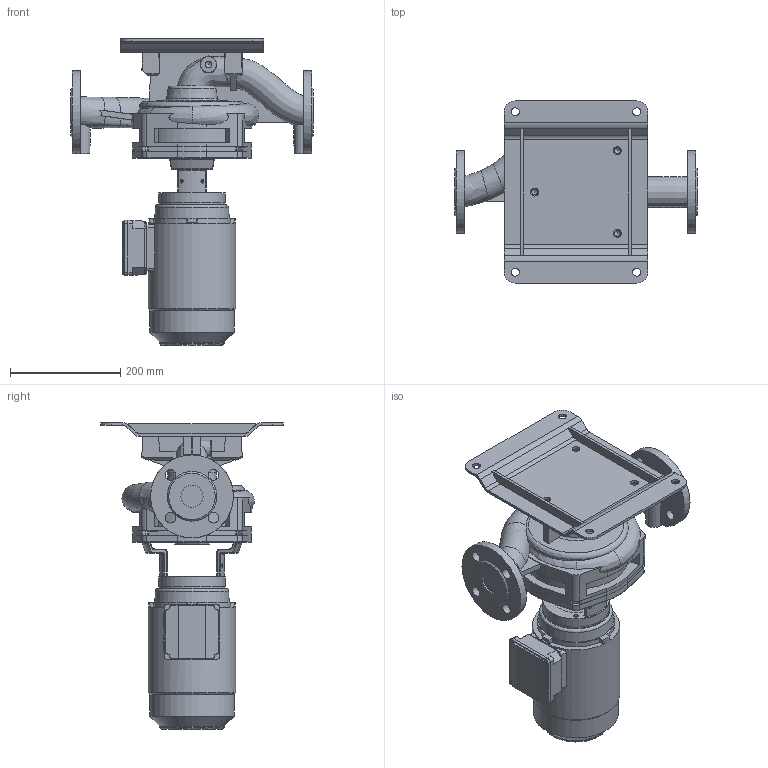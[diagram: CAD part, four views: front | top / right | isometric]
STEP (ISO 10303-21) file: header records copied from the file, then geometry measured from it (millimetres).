
FILE_DESCRIPTION (( 'STEP AP203' ), '1' );
FILE_NAME ('KI40-180_4_0,75kW.STEP', '2024-07-29T11:01:49', ( '' ), ( '' ), 'SwSTEP 2.0', 'SolidWorks 2023', '' );
FILE_SCHEMA (( 'CONFIG_CONTROL_DESIGN' ));
Length unit declared in the file: millimetre
Products named in the file (11): 230031; KI40-180_4_0,75kW; 220542; 220440; 230410; 230033; 230411; 220441; 220544; HMA3_80_2-4_solid; 230034
Assembly tree (11 placements, depth 3):
  KI40-180_4_0,75kW
    HMA3_80_2-4_solid
    230411
      230410
    220441
      220440
    220544
      220542
    230034
      230031
      230033  x2
Bounding box: 440 x 330.18 x 555.45 mm (x, y, z)
Volume: 12136815.9 mm3; surface area: 957865.8 mm2
Topology: 7 solids, 7 shells, 818 faces, 2126 edges, 1326 vertices
Faces by surface type: plane 291, cylinder 271, bspline 106, cone 71, torus 67, sphere 12
Full cylindrical faces by diameter (mm): 5 x12, 6 x3, 7 x8, 8 x4, 10.2 x7, 11.8 x4, 14 x4, 14.5 x7, 19 x8, 40 x2, 80 x1, 116 x1, 120 x2, 150 x2, 153.6 x1, 158.6 x1, 161 x1, 169 x1, 189 x1
Entity records: 48143 total; most frequent: CARTESIAN_POINT 28595, ORIENTED_EDGE 3876, DIRECTION 3645, EDGE_CURVE 1938, AXIS2_PLACEMENT_3D 1406, VERTEX_POINT 1268, EDGE_LOOP 1008, FACE_OUTER_BOUND 884
